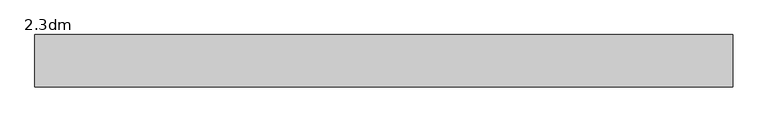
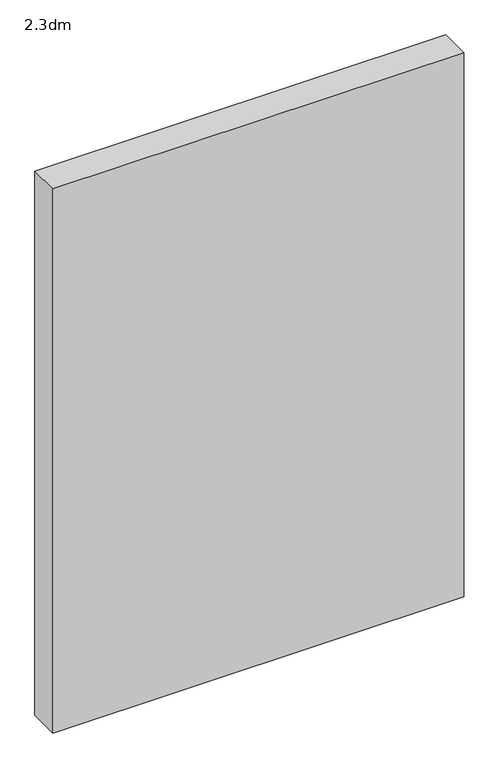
"""IFC4 building model written with IfcOpenShell, lengths in millimetres: proxy geometry, 2.3dm."""

from ifc_helpers import new_model, si_unit, origin, origin_with_axes, place, context, project, spatial, polyline, outline, extrude, source, transform, mapped, element, save


def proxy_2_3dm_ef0c58a9(model_context):
    return source(origin(), model_context, "Body", "SweptSolid", [
        extrude(outline(polyline([(2254.0, 6.0), (2254.0, 156.0), (4254.0, 156.0), (4254.0, 6.0), (2254.0, 6.0)])), origin_with_axes(), (0.0, 0.0, 1.0), 2800.0),
    ])


if __name__ == "__main__":
    model = new_model("IFC4")
    model_context = context("Model", 3, world=origin())
    ifc_project = project(units=[si_unit("LENGTHUNIT", "METRE", prefix="MILLI")], contexts=[model_context])
    site = spatial("IfcSite", under=ifc_project)
    building = spatial("IfcBuilding", under=site)
    placement = place(None, origin())
    proxy_2_3dm_shape = proxy_2_3dm_ef0c58a9(model_context)
    element("IfcBuildingElementProxy", 1, Name="2.3dm", ObjectType="2.3dm", at=placement, inside=building, context=model_context, shape_type="MappedRepresentation", body=[
        mapped(proxy_2_3dm_shape, transform((0.0, 0.0, 0.0), x_axis=(1.0, 0.0, 0.0), y_axis=(0.0, 1.0, 0.0), z_axis=(0.0, 0.0, 1.0))),
    ])
    save(model, "model.ifc")
